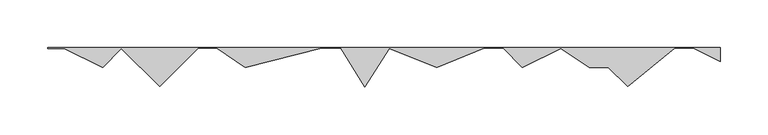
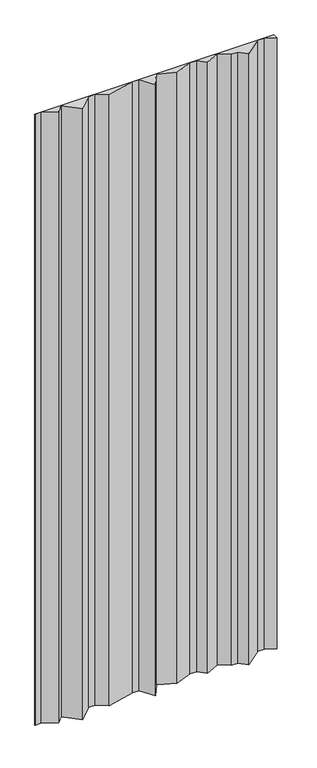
"""IFC4 building model written with IfcOpenShell, lengths in millimetres: plate geometry, ATELIERS 3S_GLACE PISSAILLAS 1000_VERTICAL : AZURO."""

from ifc_helpers import new_model, si_unit, origin, origin_with_axes, place, context, project, spatial, polyline, outline, extrude, source, transform, mapped, element, save


def plate_bb810d9b(model_context):
    return source(origin(), model_context, "Body", "SweptSolid", [
        extrude(outline(polyline([(-334.9527881, -0.864757), (-351.9999998, -0.864757), (-351.9999998, 0.0), (351.9999998, 0.0), (351.9999998, -14.8431033), (323.8137933, -0.75), (304.2580966, -0.75), (254.93992, -41.009736), (234.6801841, -20.75), (214.7637625, -20.75), (184.9369623, -0.8654665), (144.8427545, -20.9125704), (124.6801841, -0.75), (105.135281, -0.75), (54.9908442, -20.8077747), (5.2945055, -0.9292392), (-20.0091558, -41.4150972), (-45.4248415, -0.75), (-64.9168265, -0.75), (-145.1491254, -20.8080747), (-175.2362375, -0.75), (-194.6984956, -0.75), (-235.0091558, -41.0606602), (-275.003716, -1.0660999), (-294.4501557, -20.9135393), (-334.9527881, -0.864757)])), origin_with_axes(), (0.0, 0.0, 1.0), 1900.0),
    ])


if __name__ == "__main__":
    model = new_model("IFC4")
    model_context = context("Model", 3, world=origin())
    ifc_project = project(units=[si_unit("LENGTHUNIT", "METRE", prefix="MILLI")], contexts=[model_context])
    site = spatial("IfcSite", under=ifc_project)
    building = spatial("IfcBuilding", under=site)
    placement = place(None, origin())
    plate_shape = plate_bb810d9b(model_context)
    element("IfcPlate", 1, ObjectType="ATELIERS 3S_GLACE PISSAILLAS 1000_VERTICAL : AZURO", at=placement, inside=building, context=model_context, shape_type="MappedRepresentation", body=[
        mapped(plate_shape, transform((0.0, 0.0, 0.0), x_axis=(1.0, 0.0, 0.0), y_axis=(0.0, 1.0, 0.0), z_axis=(0.0, 0.0, 1.0))),
    ])
    save(model, "model.ifc")
